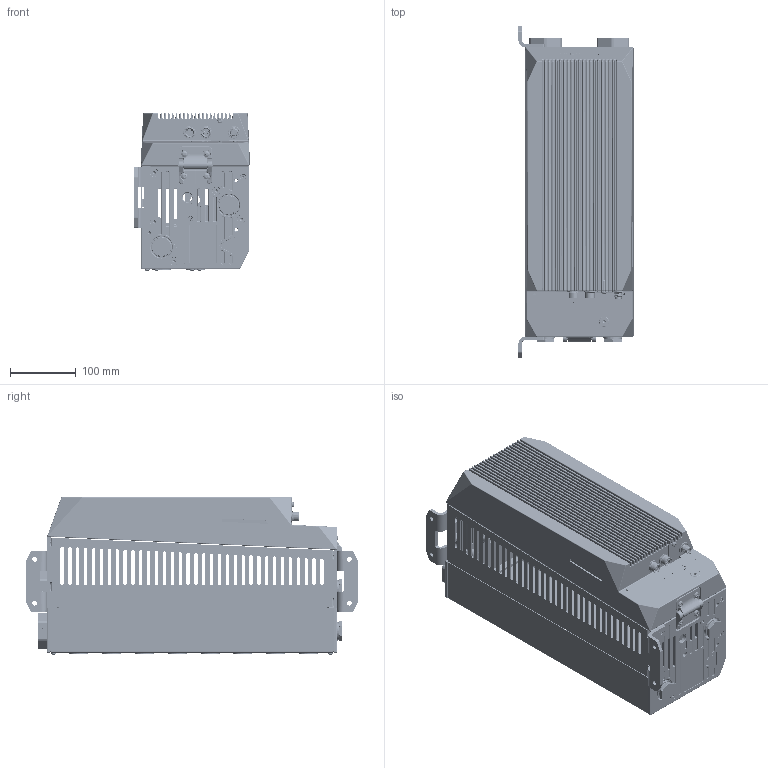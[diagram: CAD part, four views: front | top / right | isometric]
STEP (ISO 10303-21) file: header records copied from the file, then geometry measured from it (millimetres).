
FILE_DESCRIPTION (( 'STEP AP214' ), '1' );
FILE_NAME ('HB-FX1XXL61-8.STEP', '2026-03-02T09:01:26', ( '' ), ( '' ), 'SwSTEP 2.0', 'SolidWorks 2023', '' );
FILE_SCHEMA (( 'AUTOMOTIVE_DESIGN' ));
Length unit declared in the file: millimetre
Products named in the file (21): Kopie von K8534-Hülle LINKS^Kopie von K8534-Hülle Teil3_K8534-Hülle kompl_8-FACH; Kopie (2) von B3061620^Kopie von K8534-Hülle Teil2_K8534-Hülle kompl_M4x12; KX508-2_1^Kopie von 28706_Kopie von K8534-Hülle Teil2_K8534-Hülle kompl; Kopie von 29733-X^Kopie von K8534-Hülle Teil2_K8534-Hülle kompl; KX508-2_3^Kopie von 28706_Kopie von K8534-Hülle Teil2_K8534-Hülle kompl; KX508-2_2^Kopie von 28706_Kopie von K8534-Hülle Teil2_K8534-Hülle kompl; Kopie von K8534-Hülle Teil2^K8534-Hülle kompl_8-Fach HB-Therm; Kopie von K8534-Hülle Teil3^K8534-Hülle kompl_8-FACH-LINKS HB-Therm; Kopie von 29714^Kopie von K8534-Hülle Teil2_K8534-Hülle kompl; Kopie von 29730^Kopie von K8534-Hülle Teil3_K8534-Hülle kompl_00; Kopie von Kopie von 24568^Kopie von K8534-Hülle Teil3_K8534-Hülle kompl_00; Kopie von 29816-X^Kopie von K8534-Hülle Teil3_K8534-Hülle kompl_01-mit Beschriftung; Kopie von 29821-X^Kopie von K8534-Hülle Teil3_K8534-Hülle kompl_00; Kopie von 28862^Kopie von K8534-Hülle Teil2_K8534-Hülle kompl_M5x12; HB-FX1XXL61-8; Kopie von 29734-X^Kopie von K8534-Hülle Teil3_K8534-Hülle kompl_00; Kopie von 29810-X^Kopie von K8534-Hülle Teil3_K8534-Hülle kompl_01-mit Beschriftung; Kopie von 28706^Kopie von K8534-Hülle Teil2_K8534-Hülle kompl_180°; Kopie von 29827^Kopie von K8534-Hülle Teil2_K8534-Hülle kompl; Kopie von 29715-X^Kopie von K8534-Hülle Teil2_K8534-Hülle kompl_29715-1; Kopie von Kopie von 29730^Kopie von K8534-Hülle Teil2_K8534-Hülle kompl_00
Assembly tree (30 placements, depth 4):
  HB-FX1XXL61-8
    Kopie von K8534-Hülle Teil3^K8534-Hülle kompl_8-FACH-LINKS HB-Therm
      Kopie von 29734-X^Kopie von K8534-Hülle Teil3_K8534-Hülle kompl_00  x2
      Kopie von 29730^Kopie von K8534-Hülle Teil3_K8534-Hülle kompl_00  x4
      Kopie von K8534-Hülle LINKS^Kopie von K8534-Hülle Teil3_K8534-Hülle kompl_8-FACH
      Kopie von 29821-X^Kopie von K8534-Hülle Teil3_K8534-Hülle kompl_00
      Kopie von 29816-X^Kopie von K8534-Hülle Teil3_K8534-Hülle kompl_01-mit Beschriftung
      Kopie von 29810-X^Kopie von K8534-Hülle Teil3_K8534-Hülle kompl_01-mit Beschriftung
      Kopie von Kopie von 24568^Kopie von K8534-Hülle Teil3_K8534-Hülle kompl_00  x2
    Kopie von K8534-Hülle Teil2^K8534-Hülle kompl_8-Fach HB-Therm
      Kopie von 29715-X^Kopie von K8534-Hülle Teil2_K8534-Hülle kompl_29715-1
      Kopie von 29827^Kopie von K8534-Hülle Teil2_K8534-Hülle kompl  x2
      Kopie von 29714^Kopie von K8534-Hülle Teil2_K8534-Hülle kompl
      Kopie von 28862^Kopie von K8534-Hülle Teil2_K8534-Hülle kompl_M5x12  x4
      Kopie von 28706^Kopie von K8534-Hülle Teil2_K8534-Hülle kompl_180°
        KX508-2_1^Kopie von 28706_Kopie von K8534-Hülle Teil2_K8534-Hülle kompl
        KX508-2_2^Kopie von 28706_Kopie von K8534-Hülle Teil2_K8534-Hülle kompl
        KX508-2_3^Kopie von 28706_Kopie von K8534-Hülle Teil2_K8534-Hülle kompl
      Kopie von Kopie von 29730^Kopie von K8534-Hülle Teil2_K8534-Hülle kompl_00  x2
      Kopie von 29733-X^Kopie von K8534-Hülle Teil2_K8534-Hülle kompl
      Kopie (2) von B3061620^Kopie von K8534-Hülle Teil2_K8534-Hülle kompl_M4x12
Bounding box: 175.36 x 506 x 239.82 mm (x, y, z)
Volume: 1568509 mm3; surface area: 1033032.9 mm2
Topology: 102 solids, 103 shells, 7563 faces, 18541 edges, 11311 vertices
Faces by surface type: plane 2534, cylinder 2264, bspline 1052, torus 732, cone 720, sphere 261
Full cylindrical faces by diameter (mm): 2.5 x22, 3.3 x24, 3.6 x1, 4 x12, 4.2 x5, 4.5 x6, 4.6 x1, 4.9 x6, 5 x36, 5.2 x4, 6 x14, 6.6 x12, 6.8 x2, 7 x18, 7.8 x2, 8.3 x1, 8.4 x4, 9.4 x1, 10 x1, 10.2 x1, 10.3 x1, 10.55 x1, 10.8 x2, 12 x26, 12.1 x10, 14.5 x3, 18.4 x2, 19 x19, 20.96 x2, 26.6 x2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
Entity records: 321599 total; most frequent: CARTESIAN_POINT 99988, ORIENTED_EDGE 33858, DIRECTION 32320, EDGE_CURVE 16929, AXIS2_PLACEMENT_3D 12327, VERTEX_POINT 10695, EDGE_LOOP 8612, VECTOR 7666
